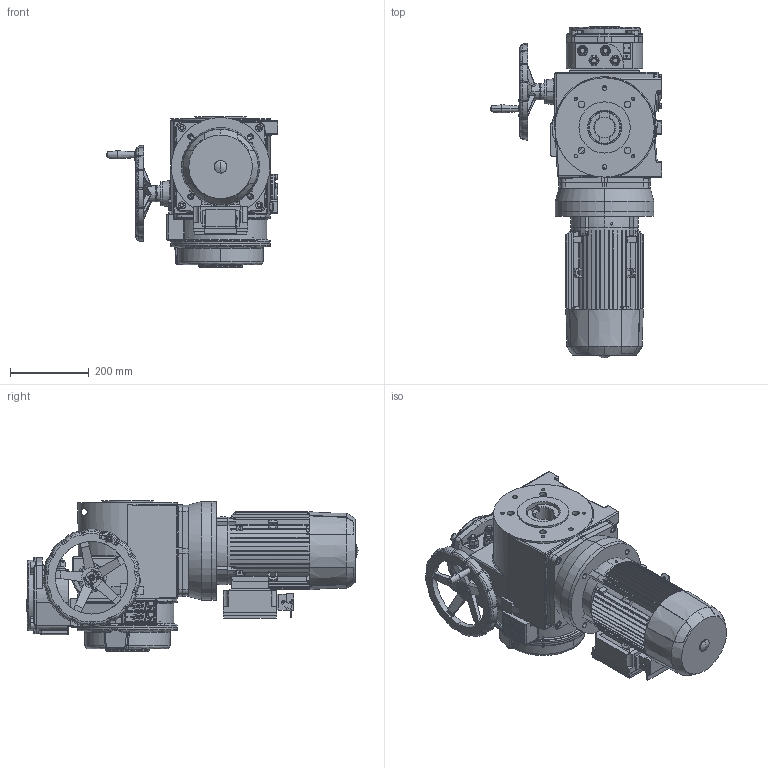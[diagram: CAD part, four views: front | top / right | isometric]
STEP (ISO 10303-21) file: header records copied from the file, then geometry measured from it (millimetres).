
FILE_DESCRIPTION (( 'STEP AP214' ), '1' );
FILE_NAME ('52024 MOA výstup C.STEP', '2025-05-06T05:56:12', ( '' ), ( '' ), 'SwSTEP 2.0', 'SolidWorks 2015', '' );
FILE_SCHEMA (( 'AUTOMOTIVE_DESIGN' ));
Length unit declared in the file: millimetre
Products named in the file (13): 1_6; 52024; hridel_vystupni_C_Provedeni E; 22050142 skrin_OPRACOVANI; 1_5; 1; 1_4; 52024 MOA výstup C; 1_7; krouzek 22353294; 1_3; 1_2; 1LE1003-1AB59-0FB4-Z_M1D+R70_3D_en
Assembly tree (12 placements, depth 3):
  52024 MOA výstup C
    52024
    1LE1003-1AB59-0FB4-Z_M1D+R70_3D_en
      1
      1_2
      1_3
      1_4
      1_5
      1_6
      1_7
    22050142 skrin_OPRACOVANI
    krouzek 22353294
    hridel_vystupni_C_Provedeni E
Bounding box: 435.02 x 842.25 x 381 mm (x, y, z)
Volume: 19645152.9 mm3; surface area: 2580415.8 mm2
Topology: 64 solids, 64 shells, 5005 faces, 13071 edges, 8407 vertices
Faces by surface type: plane 2524, cylinder 1346, bspline 852, cone 219, torus 60, sphere 4
Entity records: 321665 total; most frequent: CARTESIAN_POINT 153374, ORIENTED_EDGE 25982, DIRECTION 22653, EDGE_CURVE 12991, VERTEX_POINT 8407, AXIS2_PLACEMENT_3D 7670, VECTOR 7313, LINE 7313
